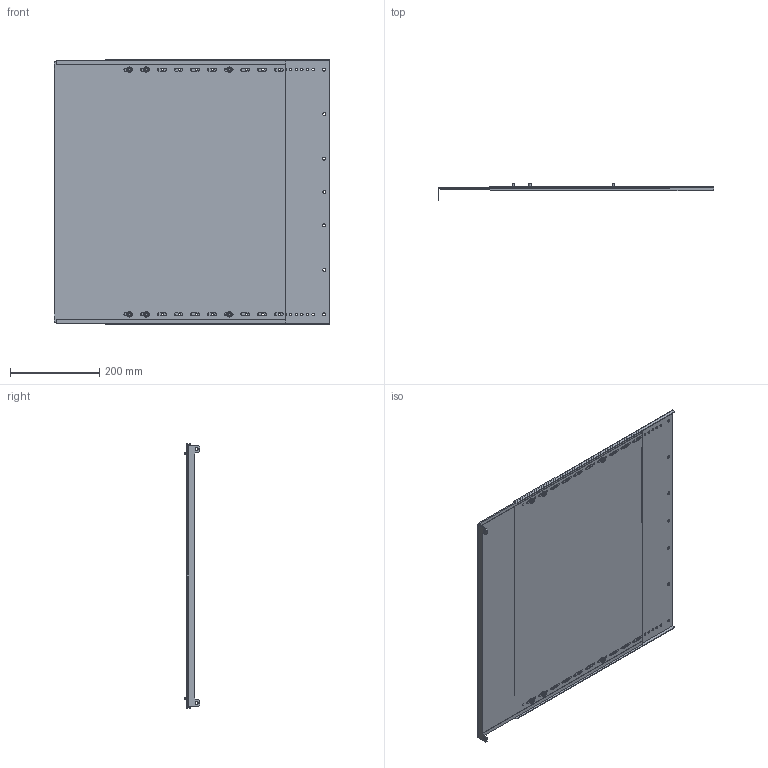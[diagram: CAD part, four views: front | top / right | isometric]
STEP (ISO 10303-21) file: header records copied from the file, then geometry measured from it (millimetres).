
FILE_DESCRIPTION (( 'STEP AP214' ), '1' );
FILE_NAME ('FO-00-SWVB-060-060 Ïåðåãîðîäêà ñåêöèîíèðîâàíèÿ âåðòèêàëüíàÿ äëÿ âåðòèêàëüíîãî øèííîãî îòñåêà 600õ600 ìì â øêàô ãëóáèíîé 1000 ìì.STEP', '2025-08-08T09:53:36', ( '' ), ( '' ), 'SwSTEP 2.0', 'SolidWorks 2023', '' );
FILE_SCHEMA (( 'AUTOMOTIVE_DESIGN' ));
Length unit declared in the file: millimetre
Products named in the file (4): Перегородка секционирования ап 600х600; FO-00-SWVB-060-060 Перегородка секционирования вертикальная для вертикального шинного отсека 600х600 мм в шкаф глубиной 1000 мм; Болты М5 х600; Перегородка секционирования 600х600
Assembly tree (5 placements, depth 2):
  FO-00-SWVB-060-060 Перегородка секционирования вертикальная для вертикального шинного отсека 600х600 мм в шкаф глубиной 1000 мм
    Перегородка секционирования 600х600
    Перегородка секционирования ап 600х600
    Болты М5 х600  x3
Bounding box: 619.75 x 35.7 x 594.5 mm (x, y, z)
Volume: 943888.1 mm3; surface area: 1251701.6 mm2
Topology: 8 solids, 8 shells, 468 faces, 1284 edges, 844 vertices
Faces by surface type: cylinder 316, plane 116, torus 24, cone 12
Entity records: 12286 total; most frequent: DIRECTION 2228, CARTESIAN_POINT 2036, ORIENTED_EDGE 2016, EDGE_CURVE 1008, AXIS2_PLACEMENT_3D 860, VERTEX_POINT 668, EDGE_LOOP 558, VECTOR 508
